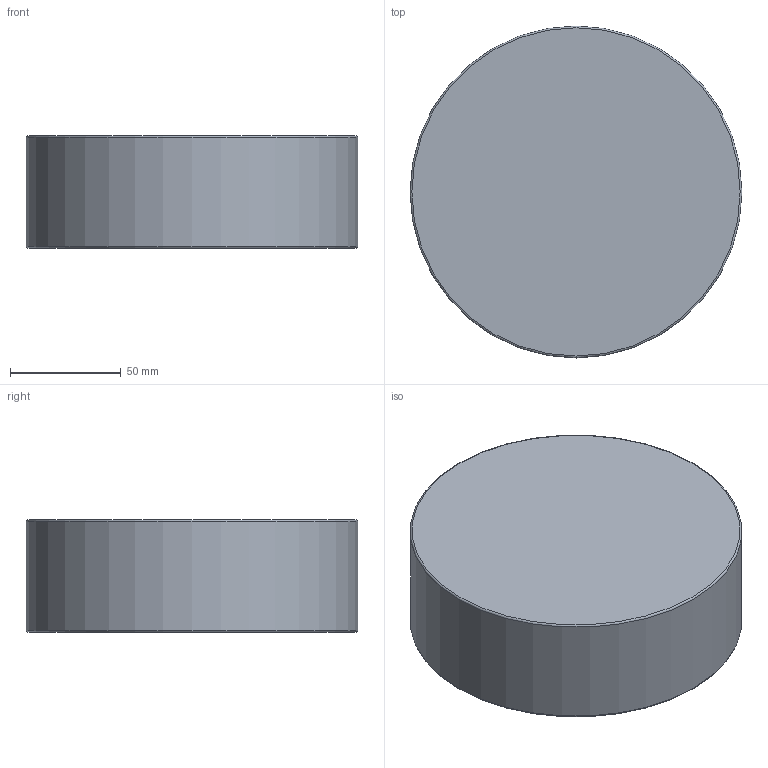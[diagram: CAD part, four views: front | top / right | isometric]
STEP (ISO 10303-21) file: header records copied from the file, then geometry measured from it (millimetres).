
FILE_DESCRIPTION(/* description */ ('','CAx-IF Rec.Pracs.---Representation and Presentation of Product Manufacturing Information (PMI)---4.0---2014-10-13'),/* implementation_level */ '2;1');
FILE_NAME(/* name */ 'MAX-4_2x5.9_Pallet_Gen2_Distributable.step',/* time_stamp */ '2025-03-01T17:07:37-08:00',/* author */ (''),/* organization */ (''),/* preprocessor_version */ 'ST-DEVELOPER v20',/* originating_system */ 'Autodesk Translation Framework v13.20.0.188',/* authorisation */ '');
FILE_SCHEMA (('AP242_MANAGED_MODEL_BASED_3D_ENGINEERING_MIM_LF { 1 0 10303 442 1 1 4 }'));
Products named in the file (1): MAX-4 2x6 Round Pallet Gen2
Bounding box: 150.01 x 150.01 x 50.8 mm (x, y, z)
Volume: 793165.6 mm3; surface area: 66210.9 mm2
Topology: 1 solids, 1 shells, 1334 faces, 3709 edges, 2469 vertices
Faces by surface type: bspline 832, plane 472, cylinder 19, cone 8, torus 3
Full cylindrical faces by diameter (mm): 5.118 x8, 9.55 x8, 35.56 x1, 94.005 x1, 150.012 x1
Entity records: 50140 total; most frequent: CARTESIAN_POINT 21649, ORIENTED_EDGE 7402, EDGE_CURVE 3701, DIRECTION 3087, VERTEX_POINT 2469, LINE 1993, VECTOR 1993, B_SPLINE_CURVE_WITH_KNOTS 1664
